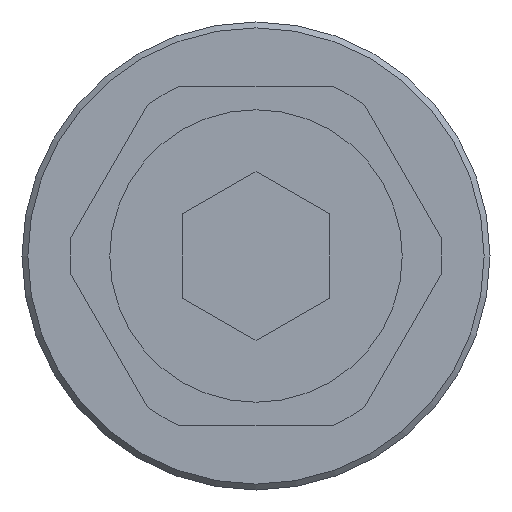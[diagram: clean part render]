
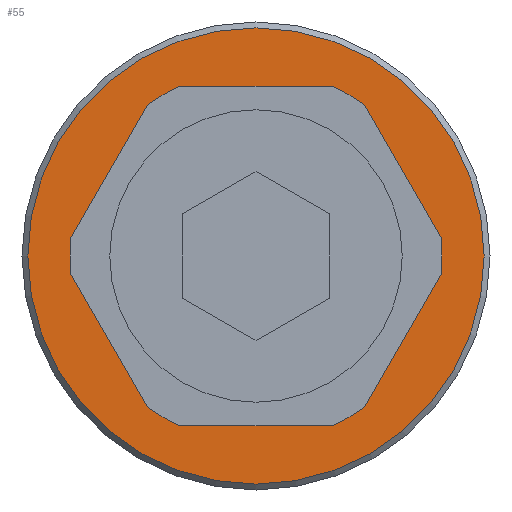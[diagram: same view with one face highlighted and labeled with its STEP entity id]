
A CAD part, left-side view. The second image highlights one B-rep face of the part: STEP entity #55.
In plain terms, the highlighted planar face has unit normal (-1, 0, 0).
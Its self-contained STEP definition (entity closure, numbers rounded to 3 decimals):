
#55 = ADVANCED_FACE( '', ( #134, #135 ), #136, .F. );
#134 = FACE_OUTER_BOUND( '', #246, .T. );
#135 = FACE_BOUND( '', #247, .T. );
#136 = PLANE( '', #248 );
#246 = EDGE_LOOP( '', ( #352 ) );
#247 = EDGE_LOOP( '', ( #353, #354, #355, #356, #357, #358, #359, #360, #361, #362, #363, #364 ) );
#248 = AXIS2_PLACEMENT_3D( '', #365, #366, #367 );
#352 = ORIENTED_EDGE( '', *, *, #605, .F. );
#353 = ORIENTED_EDGE( '', *, *, #606, .T. );
#354 = ORIENTED_EDGE( '', *, *, #607, .T. );
#355 = ORIENTED_EDGE( '', *, *, #608, .T. );
#356 = ORIENTED_EDGE( '', *, *, #609, .T. );
#357 = ORIENTED_EDGE( '', *, *, #610, .T. );
#358 = ORIENTED_EDGE( '', *, *, #611, .T. );
#359 = ORIENTED_EDGE( '', *, *, #612, .T. );
#360 = ORIENTED_EDGE( '', *, *, #613, .T. );
#361 = ORIENTED_EDGE( '', *, *, #614, .F. );
#362 = ORIENTED_EDGE( '', *, *, #615, .T. );
#363 = ORIENTED_EDGE( '', *, *, #616, .T. );
#364 = ORIENTED_EDGE( '', *, *, #617, .T. );
#365 = CARTESIAN_POINT( '', ( 0., 0., 0. ) );
#366 = DIRECTION( '', ( 1., 0., 0. ) );
#367 = DIRECTION( '', ( 0., 0., -1. ) );
#605 = EDGE_CURVE( '', #701, #701, #702, .T. );
#606 = EDGE_CURVE( '', #703, #704, #705, .T. );
#607 = EDGE_CURVE( '', #704, #706, #707, .T. );
#608 = EDGE_CURVE( '', #706, #708, #709, .T. );
#609 = EDGE_CURVE( '', #708, #710, #711, .T. );
#610 = EDGE_CURVE( '', #710, #712, #713, .T. );
#611 = EDGE_CURVE( '', #712, #714, #715, .T. );
#612 = EDGE_CURVE( '', #714, #716, #717, .T. );
#613 = EDGE_CURVE( '', #716, #718, #719, .T. );
#614 = EDGE_CURVE( '', #720, #718, #721, .F. );
#615 = EDGE_CURVE( '', #720, #722, #723, .T. );
#616 = EDGE_CURVE( '', #722, #724, #725, .T. );
#617 = EDGE_CURVE( '', #724, #703, #726, .T. );
#701 = VERTEX_POINT( '', #842 );
#702 = CIRCLE( '', #843, 3.9 );
#703 = VERTEX_POINT( '', #844 );
#704 = VERTEX_POINT( '', #845 );
#705 = CIRCLE( '', #846, 3.18 );
#706 = VERTEX_POINT( '', #847 );
#707 = LINE( '', #848, #849 );
#708 = VERTEX_POINT( '', #850 );
#709 = CIRCLE( '', #851, 3.18 );
#710 = VERTEX_POINT( '', #852 );
#711 = LINE( '', #853, #854 );
#712 = VERTEX_POINT( '', #855 );
#713 = CIRCLE( '', #856, 3.18 );
#714 = VERTEX_POINT( '', #857 );
#715 = LINE( '', #858, #859 );
#716 = VERTEX_POINT( '', #860 );
#717 = CIRCLE( '', #861, 3.18 );
#718 = VERTEX_POINT( '', #862 );
#719 = LINE( '', #863, #864 );
#720 = VERTEX_POINT( '', #865 );
#721 = CIRCLE( '', #866, 3.18 );
#722 = VERTEX_POINT( '', #867 );
#723 = LINE( '', #868, #869 );
#724 = VERTEX_POINT( '', #870 );
#725 = CIRCLE( '', #871, 3.18 );
#726 = LINE( '', #872, #873 );
#842 = CARTESIAN_POINT( '', ( 0., 0., -3.9 ) );
#843 = AXIS2_PLACEMENT_3D( '', #1024, #1025, #1026 );
#844 = CARTESIAN_POINT( '', ( 0., -1.305, 2.9 ) );
#845 = CARTESIAN_POINT( '', ( 0., -1.859, 2.58 ) );
#846 = AXIS2_PLACEMENT_3D( '', #1027, #1028, #1029 );
#847 = CARTESIAN_POINT( '', ( 0., -3.164, 0.32 ) );
#848 = CARTESIAN_POINT( '', ( 0., -1.859, 2.58 ) );
#849 = VECTOR( '', #1030, 1000. );
#850 = CARTESIAN_POINT( '', ( 0., -3.164, -0.32 ) );
#851 = AXIS2_PLACEMENT_3D( '', #1031, #1032, #1033 );
#852 = CARTESIAN_POINT( '', ( 0., -1.859, -2.58 ) );
#853 = CARTESIAN_POINT( '', ( 0., -3.164, -0.32 ) );
#854 = VECTOR( '', #1034, 1000. );
#855 = CARTESIAN_POINT( '', ( 0., -1.305, -2.9 ) );
#856 = AXIS2_PLACEMENT_3D( '', #1035, #1036, #1037 );
#857 = CARTESIAN_POINT( '', ( 0., 1.305, -2.9 ) );
#858 = CARTESIAN_POINT( '', ( 0., -1.305, -2.9 ) );
#859 = VECTOR( '', #1038, 1000. );
#860 = CARTESIAN_POINT( '', ( 0., 1.859, -2.58 ) );
#861 = AXIS2_PLACEMENT_3D( '', #1039, #1040, #1041 );
#862 = CARTESIAN_POINT( '', ( 0., 3.164, -0.32 ) );
#863 = CARTESIAN_POINT( '', ( 0., 1.859, -2.58 ) );
#864 = VECTOR( '', #1042, 1000. );
#865 = CARTESIAN_POINT( '', ( 0., 3.164, 0.32 ) );
#866 = AXIS2_PLACEMENT_3D( '', #1043, #1044, #1045 );
#867 = CARTESIAN_POINT( '', ( 0., 1.859, 2.58 ) );
#868 = CARTESIAN_POINT( '', ( 0., 3.164, 0.32 ) );
#869 = VECTOR( '', #1046, 1000. );
#870 = CARTESIAN_POINT( '', ( 0., 1.305, 2.9 ) );
#871 = AXIS2_PLACEMENT_3D( '', #1047, #1048, #1049 );
#872 = CARTESIAN_POINT( '', ( 0., 1.305, 2.9 ) );
#873 = VECTOR( '', #1050, 1000. );
#1024 = CARTESIAN_POINT( '', ( 0., 0., 0. ) );
#1025 = DIRECTION( '', ( 1., 0., 0. ) );
#1026 = DIRECTION( '', ( 0., 0., -1. ) );
#1027 = CARTESIAN_POINT( '', ( 0., 0., 0. ) );
#1028 = DIRECTION( '', ( 1., 0., 0. ) );
#1029 = DIRECTION( '', ( 0., 0., -1. ) );
#1030 = DIRECTION( '', ( 0., -0.5, -0.866 ) );
#1031 = CARTESIAN_POINT( '', ( 0., 0., 0. ) );
#1032 = DIRECTION( '', ( 1., 0., 0. ) );
#1033 = DIRECTION( '', ( 0., 0., -1. ) );
#1034 = DIRECTION( '', ( 0., 0.5, -0.866 ) );
#1035 = CARTESIAN_POINT( '', ( 0., 0., 0. ) );
#1036 = DIRECTION( '', ( 1., 0., 0. ) );
#1037 = DIRECTION( '', ( 0., 0., -1. ) );
#1038 = DIRECTION( '', ( 0., 1., 0. ) );
#1039 = CARTESIAN_POINT( '', ( 0., 0., 0. ) );
#1040 = DIRECTION( '', ( 1., 0., 0. ) );
#1041 = DIRECTION( '', ( 0., 0., -1. ) );
#1042 = DIRECTION( '', ( 0., 0.5, 0.866 ) );
#1043 = CARTESIAN_POINT( '', ( 0., 0., 0. ) );
#1044 = DIRECTION( '', ( 1., 0., 0. ) );
#1045 = DIRECTION( '', ( 0., 0., -1. ) );
#1046 = DIRECTION( '', ( 0., -0.5, 0.866 ) );
#1047 = CARTESIAN_POINT( '', ( 0., 0., 0. ) );
#1048 = DIRECTION( '', ( 1., 0., 0. ) );
#1049 = DIRECTION( '', ( 0., 0., -1. ) );
#1050 = DIRECTION( '', ( 0., -1., 0. ) );
